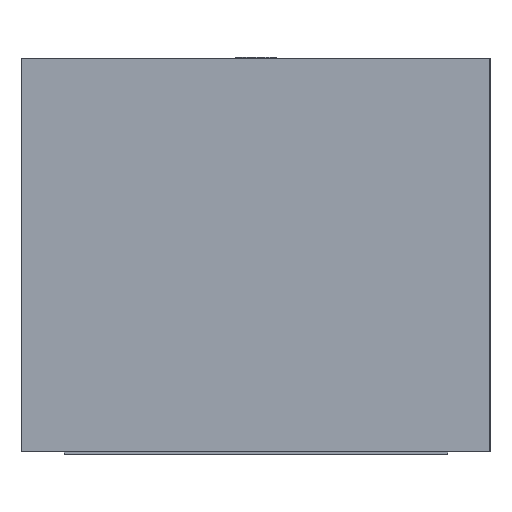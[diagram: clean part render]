
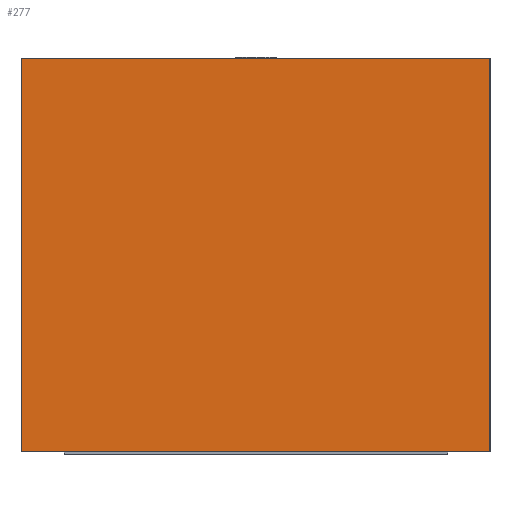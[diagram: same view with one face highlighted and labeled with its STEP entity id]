
A CAD part, left-side view. The second image highlights one B-rep face of the part: STEP entity #277.
In plain terms, the highlighted planar face has unit normal (-1, 0, 0).
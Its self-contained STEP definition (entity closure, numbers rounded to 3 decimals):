
#143=CARTESIAN_POINT('',(-0.851,-0.495,0.006));
#142=VERTEX_POINT('',#143);
#161=CARTESIAN_POINT('',(-0.851,-0.495,0.838));
#160=VERTEX_POINT('',#161);
#169=EDGE_CURVE('',#142,#160,#174,.T.);
#174=LINE('',#143,#176);
#176=VECTOR('',#177,0.832);
#177=DIRECTION('',(0.0,0.0,1.0));
#239=CARTESIAN_POINT('',(-0.851,0.495,0.006));
#238=VERTEX_POINT('',#239);
#249=CARTESIAN_POINT('',(-0.851,0.495,0.838));
#248=VERTEX_POINT('',#249);
#247=EDGE_CURVE('',#248,#238,#252,.T.);
#252=LINE('',#249,#254);
#254=VECTOR('',#255,0.832);
#255=DIRECTION('',(0.0,0.0,-1.0));
#277=ADVANCED_FACE('',(#283),#278,.T.);
#278=PLANE('',#279);
#279=AXIS2_PLACEMENT_3D('',#280,#281,#282);
#280=CARTESIAN_POINT('',(-0.851,0.495,0.006));
#281=DIRECTION('',(-1.0,0.0,0.0));
#282=DIRECTION('',(0.,0.,1.));
#283=FACE_OUTER_BOUND('',#284,.T.);
#284=EDGE_LOOP('',(#285,#295,#305,#315));
#286=EDGE_CURVE('',#142,#238,#291,.T.);
#291=LINE('',#143,#293);
#293=VECTOR('',#294,0.991);
#294=DIRECTION('',(0.0,1.0,0.0));
#285=ORIENTED_EDGE('',*,*,#286,.F.);
#295=ORIENTED_EDGE('',*,*,#169,.T.);
#306=EDGE_CURVE('',#248,#160,#311,.T.);
#311=LINE('',#249,#313);
#313=VECTOR('',#314,0.991);
#314=DIRECTION('',(0.0,-1.0,0.0));
#305=ORIENTED_EDGE('',*,*,#306,.F.);
#315=ORIENTED_EDGE('',*,*,#247,.T.);
